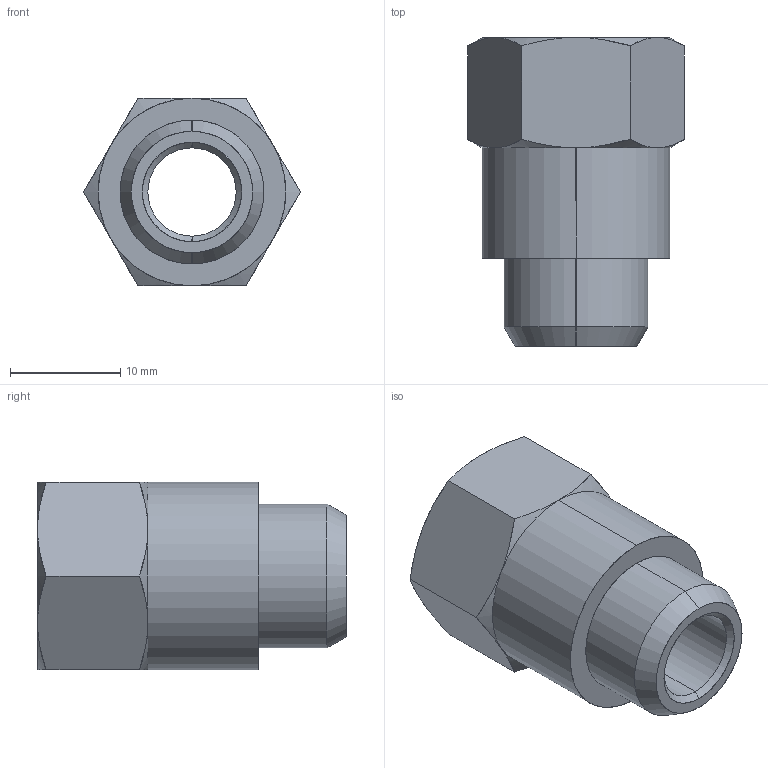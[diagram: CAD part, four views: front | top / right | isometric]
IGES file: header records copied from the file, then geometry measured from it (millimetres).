
Start section: SolidWorks IGES file using analytic representation for surfaces
Global section: file name: K:\Disegni Esecutivi\ACCESSORI\2070\ASSIEMI_.IGES_2070\020700001UR00A.IGS; native system: SolidWorks 2015; preprocessor: SolidWorks 2015; author: cad06; date: 150707.103330; units: millimetre
Bounding box: 19.63 x 28 x 17 mm (x, y, z)
Surface area: 2651.5 mm2 (no closed solid volume)
Topology: 0 solids, 0 shells, 38 faces, 548 edges, 548 vertices
Faces by surface type: revolution 28, bspline 10
